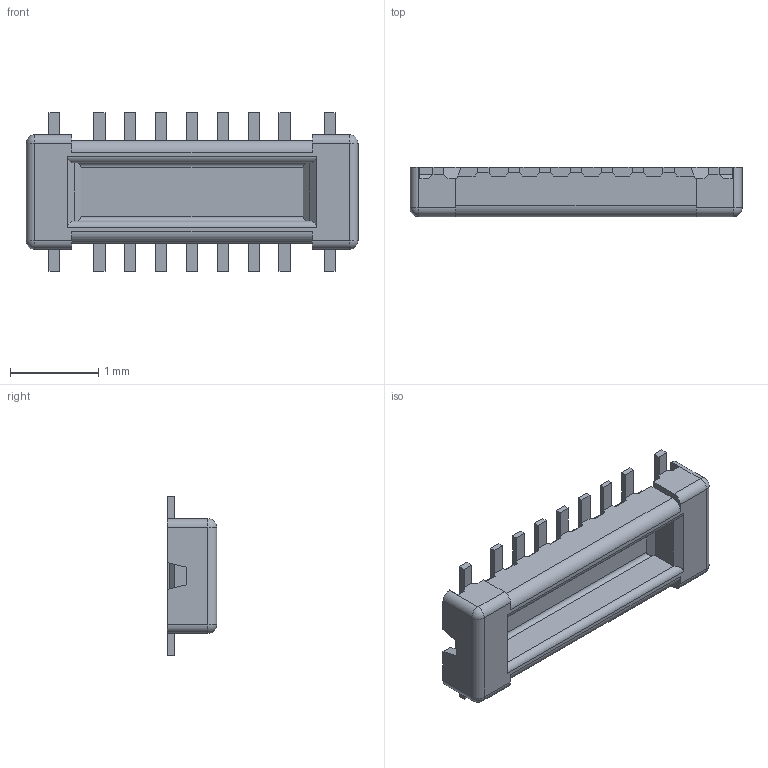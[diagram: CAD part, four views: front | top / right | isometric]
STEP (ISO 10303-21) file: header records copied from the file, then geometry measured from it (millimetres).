
FILE_DESCRIPTION (( 'STEP AP203' ), '1' );
FILE_NAME ('20708-014E-01 PLUG ASSY STEP R1 ALL.STEP', '2025-02-21T04:53:34', ( '' ), ( '' ), 'SwSTEP 2.0', 'SolidWorks 2023', '' );
FILE_SCHEMA (( 'CONFIG_CONTROL_DESIGN' ));
Length unit declared in the file: millimetre
Products named in the file (1): 20708-014E-01 PLUG ASSY STEP R1 ALL
Bounding box: 3.76 x 0.56 x 1.8 mm (x, y, z)
Volume: 1.6 mm3; surface area: 19.6 mm2
Topology: 1 solids, 1 shells, 237 faces, 650 edges, 412 vertices
Faces by surface type: plane 217, cylinder 16, sphere 4
Entity records: 7353 total; most frequent: CARTESIAN_POINT 1320, ORIENTED_EDGE 1292, DIRECTION 1138, EDGE_CURVE 646, LINE 614, VECTOR 614, VERTEX_POINT 412, AXIS2_PLACEMENT_3D 262
